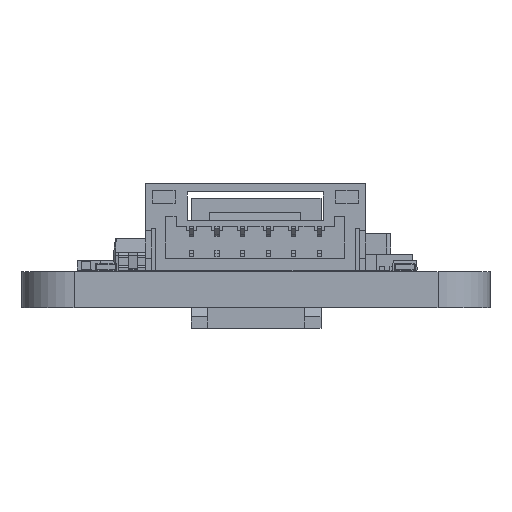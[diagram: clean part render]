
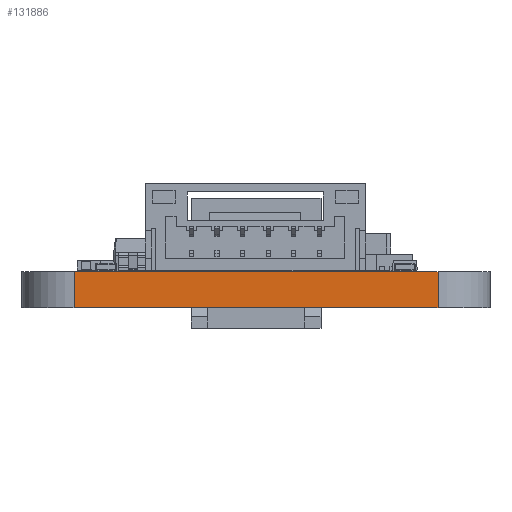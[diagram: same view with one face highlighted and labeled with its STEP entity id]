
A CAD part, left-side view. The second image highlights one B-rep face of the part: STEP entity #131886.
In plain terms, the highlighted planar face has unit normal (-1, 0, 0).
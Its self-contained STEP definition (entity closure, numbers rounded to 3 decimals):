
#129721 = PLANE('',#129722);
#129722 = AXIS2_PLACEMENT_3D('',#129723,#129724,#129725);
#129723 = CARTESIAN_POINT('',(0.127,0.,1.77)
  );
#129724 = DIRECTION('',(-0.,-0.,-1.));
#129725 = DIRECTION('',(-1.,0.,0.));
#129775 = PLANE('',#129776);
#129776 = AXIS2_PLACEMENT_3D('',#129777,#129778,#129779);
#129777 = CARTESIAN_POINT('',(0.127,0.,0.));
#129778 = DIRECTION('',(-0.,-0.,-1.));
#129779 = DIRECTION('',(-1.,0.,0.));
#130029 = VERTEX_POINT('',#130030);
#130030 = CARTESIAN_POINT('',(-27.94,-8.89,0.));
#130049 = CYLINDRICAL_SURFACE('',#130050,2.54);
#130050 = AXIS2_PLACEMENT_3D('',#130051,#130052,#130053);
#130051 = CARTESIAN_POINT('',(-25.4,-8.89,0.));
#130052 = DIRECTION('',(-0.,-0.,-1.));
#130053 = DIRECTION('',(1.,0.,-0.));
#130061 = EDGE_CURVE('',#130029,#130062,#130064,.T.);
#130062 = VERTEX_POINT('',#130063);
#130063 = CARTESIAN_POINT('',(-27.94,8.89,0.));
#130064 = SURFACE_CURVE('',#130065,(#130069,#130076),.PCURVE_S1.);
#130065 = LINE('',#130066,#130067);
#130066 = CARTESIAN_POINT('',(-27.94,-8.89,0.));
#130067 = VECTOR('',#130068,1.);
#130068 = DIRECTION('',(0.,1.,0.));
#130069 = PCURVE('',#129775,#130070);
#130070 = DEFINITIONAL_REPRESENTATION('',(#130071),#130075);
#130071 = LINE('',#130072,#130073);
#130072 = CARTESIAN_POINT('',(28.067,-8.89));
#130073 = VECTOR('',#130074,1.);
#130074 = DIRECTION('',(0.,1.));
#130075 = ( GEOMETRIC_REPRESENTATION_CONTEXT(2) 
PARAMETRIC_REPRESENTATION_CONTEXT() REPRESENTATION_CONTEXT('2D SPACE',''
  ) );
#130076 = PCURVE('',#130077,#130082);
#130077 = PLANE('',#130078);
#130078 = AXIS2_PLACEMENT_3D('',#130079,#130080,#130081);
#130079 = CARTESIAN_POINT('',(-27.94,-8.89,0.));
#130080 = DIRECTION('',(-1.,0.,0.));
#130081 = DIRECTION('',(0.,1.,0.));
#130082 = DEFINITIONAL_REPRESENTATION('',(#130083),#130087);
#130083 = LINE('',#130084,#130085);
#130084 = CARTESIAN_POINT('',(0.,0.));
#130085 = VECTOR('',#130086,1.);
#130086 = DIRECTION('',(1.,0.));
#130087 = ( GEOMETRIC_REPRESENTATION_CONTEXT(2) 
PARAMETRIC_REPRESENTATION_CONTEXT() REPRESENTATION_CONTEXT('2D SPACE',''
  ) );
#130110 = CYLINDRICAL_SURFACE('',#130111,2.54);
#130111 = AXIS2_PLACEMENT_3D('',#130112,#130113,#130114);
#130112 = CARTESIAN_POINT('',(-25.4,8.89,0.));
#130113 = DIRECTION('',(-0.,-0.,-1.));
#130114 = DIRECTION('',(1.,0.,-0.));
#130950 = VERTEX_POINT('',#130951);
#130951 = CARTESIAN_POINT('',(-27.94,-8.89,1.77));
#130977 = EDGE_CURVE('',#130950,#130978,#130980,.T.);
#130978 = VERTEX_POINT('',#130979);
#130979 = CARTESIAN_POINT('',(-27.94,8.89,1.77));
#130980 = SURFACE_CURVE('',#130981,(#130985,#130992),.PCURVE_S1.);
#130981 = LINE('',#130982,#130983);
#130982 = CARTESIAN_POINT('',(-27.94,-8.89,1.77));
#130983 = VECTOR('',#130984,1.);
#130984 = DIRECTION('',(0.,1.,0.));
#130985 = PCURVE('',#129721,#130986);
#130986 = DEFINITIONAL_REPRESENTATION('',(#130987),#130991);
#130987 = LINE('',#130988,#130989);
#130988 = CARTESIAN_POINT('',(28.067,-8.89));
#130989 = VECTOR('',#130990,1.);
#130990 = DIRECTION('',(0.,1.));
#130991 = ( GEOMETRIC_REPRESENTATION_CONTEXT(2) 
PARAMETRIC_REPRESENTATION_CONTEXT() REPRESENTATION_CONTEXT('2D SPACE',''
  ) );
#130992 = PCURVE('',#130077,#130993);
#130993 = DEFINITIONAL_REPRESENTATION('',(#130994),#130998);
#130994 = LINE('',#130995,#130996);
#130995 = CARTESIAN_POINT('',(0.,-1.77));
#130996 = VECTOR('',#130997,1.);
#130997 = DIRECTION('',(1.,0.));
#130998 = ( GEOMETRIC_REPRESENTATION_CONTEXT(2) 
PARAMETRIC_REPRESENTATION_CONTEXT() REPRESENTATION_CONTEXT('2D SPACE',''
  ) );
#131838 = EDGE_CURVE('',#130062,#130978,#131839,.T.);
#131839 = SURFACE_CURVE('',#131840,(#131844,#131851),.PCURVE_S1.);
#131840 = LINE('',#131841,#131842);
#131841 = CARTESIAN_POINT('',(-27.94,8.89,0.));
#131842 = VECTOR('',#131843,1.);
#131843 = DIRECTION('',(0.,0.,1.));
#131844 = PCURVE('',#130110,#131845);
#131845 = DEFINITIONAL_REPRESENTATION('',(#131846),#131850);
#131846 = LINE('',#131847,#131848);
#131847 = CARTESIAN_POINT('',(-3.142,0.));
#131848 = VECTOR('',#131849,1.);
#131849 = DIRECTION('',(-0.,-1.));
#131850 = ( GEOMETRIC_REPRESENTATION_CONTEXT(2) 
PARAMETRIC_REPRESENTATION_CONTEXT() REPRESENTATION_CONTEXT('2D SPACE',''
  ) );
#131851 = PCURVE('',#130077,#131852);
#131852 = DEFINITIONAL_REPRESENTATION('',(#131853),#131857);
#131853 = LINE('',#131854,#131855);
#131854 = CARTESIAN_POINT('',(17.78,0.));
#131855 = VECTOR('',#131856,1.);
#131856 = DIRECTION('',(0.,-1.));
#131857 = ( GEOMETRIC_REPRESENTATION_CONTEXT(2) 
PARAMETRIC_REPRESENTATION_CONTEXT() REPRESENTATION_CONTEXT('2D SPACE',''
  ) );
#131863 = EDGE_CURVE('',#130029,#130950,#131864,.T.);
#131864 = SURFACE_CURVE('',#131865,(#131869,#131876),.PCURVE_S1.);
#131865 = LINE('',#131866,#131867);
#131866 = CARTESIAN_POINT('',(-27.94,-8.89,0.));
#131867 = VECTOR('',#131868,1.);
#131868 = DIRECTION('',(0.,0.,1.));
#131869 = PCURVE('',#130049,#131870);
#131870 = DEFINITIONAL_REPRESENTATION('',(#131871),#131875);
#131871 = LINE('',#131872,#131873);
#131872 = CARTESIAN_POINT('',(-3.142,0.));
#131873 = VECTOR('',#131874,1.);
#131874 = DIRECTION('',(-0.,-1.));
#131875 = ( GEOMETRIC_REPRESENTATION_CONTEXT(2) 
PARAMETRIC_REPRESENTATION_CONTEXT() REPRESENTATION_CONTEXT('2D SPACE',''
  ) );
#131876 = PCURVE('',#130077,#131877);
#131877 = DEFINITIONAL_REPRESENTATION('',(#131878),#131882);
#131878 = LINE('',#131879,#131880);
#131879 = CARTESIAN_POINT('',(0.,0.));
#131880 = VECTOR('',#131881,1.);
#131881 = DIRECTION('',(0.,-1.));
#131882 = ( GEOMETRIC_REPRESENTATION_CONTEXT(2) 
PARAMETRIC_REPRESENTATION_CONTEXT() REPRESENTATION_CONTEXT('2D SPACE',''
  ) );
#131886 = ADVANCED_FACE('',(#131887),#130077,.T.);
#131887 = FACE_BOUND('',#131888,.T.);
#131888 = EDGE_LOOP('',(#131889,#131890,#131891,#131892));
#131889 = ORIENTED_EDGE('',*,*,#131863,.T.);
#131890 = ORIENTED_EDGE('',*,*,#130977,.T.);
#131891 = ORIENTED_EDGE('',*,*,#131838,.F.);
#131892 = ORIENTED_EDGE('',*,*,#130061,.F.);
